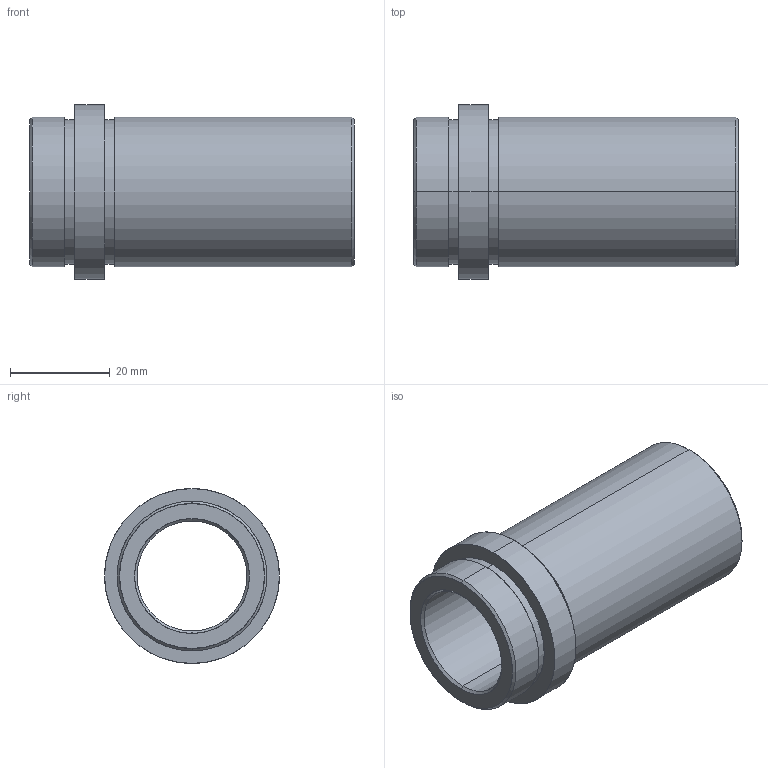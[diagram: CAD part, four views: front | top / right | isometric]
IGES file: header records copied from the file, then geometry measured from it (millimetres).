
Start section: SolidWorks IGES file using analytic representation for surfaces
Global section: file name: C:\Users\Dell\Desktop\deltakont\kontrol edilecekler\D21\Ø22\D21_22x56.IGS; native system: SolidWorks 2010; preprocessor: SolidWorks 2010; author: Dell; date: 111229.201006; units: millimetre
Bounding box: 65 x 35 x 35 mm (x, y, z)
Surface area: 11953.9 mm2 (no closed solid volume)
Topology: 0 solids, 0 shells, 26 faces, 784 edges, 784 vertices
Faces by surface type: revolution 20, bspline 6
